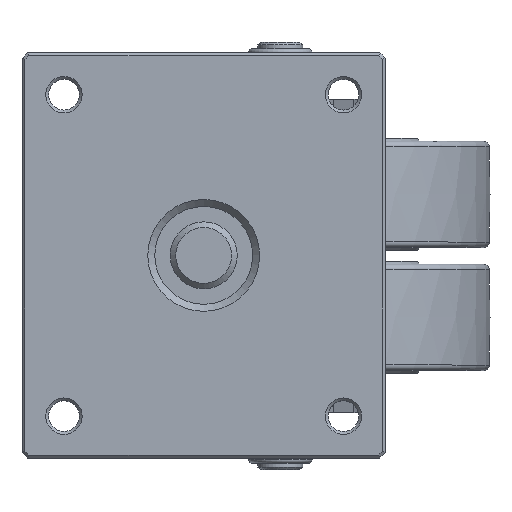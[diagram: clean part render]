
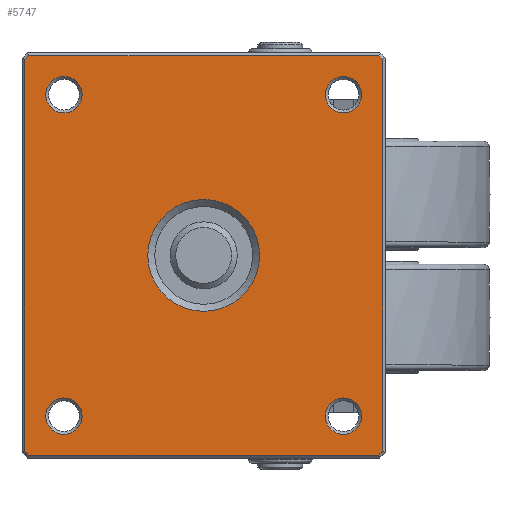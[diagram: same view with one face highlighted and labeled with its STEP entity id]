
A CAD part, top view. The second image highlights one B-rep face of the part: STEP entity #5747.
In plain terms, the highlighted planar face has unit normal (0, 0, 1).
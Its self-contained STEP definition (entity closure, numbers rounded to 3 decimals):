
#4667=CARTESIAN_POINT('',(36.992,59.63,23.5));
#4668=VERTEX_POINT('',#4667);
#4669=CARTESIAN_POINT('',(30.492,59.63,23.5));
#4670=DIRECTION('',(0.0,0.0,1.0));
#4671=DIRECTION('',(-1.0,0.0,0.0));
#4672=AXIS2_PLACEMENT_3D('',#4669,#4670,#4671);
#4673=CIRCLE('',#4672,6.5);
#4674=EDGE_CURVE('',#4668,#4668,#4673,.T.);
#4695=CARTESIAN_POINT('',(136.992,59.63,23.5));
#4696=VERTEX_POINT('',#4695);
#4697=CARTESIAN_POINT('',(130.492,59.63,23.5));
#4698=DIRECTION('',(0.0,0.0,1.0));
#4699=DIRECTION('',(-1.0,0.0,0.0));
#4700=AXIS2_PLACEMENT_3D('',#4697,#4698,#4699);
#4701=CIRCLE('',#4700,6.5);
#4702=EDGE_CURVE('',#4696,#4696,#4701,.T.);
#4723=CARTESIAN_POINT('',(136.992,-55.37,23.5));
#4724=VERTEX_POINT('',#4723);
#4725=CARTESIAN_POINT('',(130.492,-55.37,23.5));
#4726=DIRECTION('',(0.0,0.0,1.0));
#4727=DIRECTION('',(-1.0,0.0,0.0));
#4728=AXIS2_PLACEMENT_3D('',#4725,#4726,#4727);
#4729=CIRCLE('',#4728,6.5);
#4730=EDGE_CURVE('',#4724,#4724,#4729,.T.);
#4751=CARTESIAN_POINT('',(36.992,-55.37,23.5));
#4752=VERTEX_POINT('',#4751);
#4753=CARTESIAN_POINT('',(30.492,-55.37,23.5));
#4754=DIRECTION('',(0.0,0.0,1.0));
#4755=DIRECTION('',(-1.0,0.0,0.0));
#4756=AXIS2_PLACEMENT_3D('',#4753,#4754,#4755);
#4757=CIRCLE('',#4756,6.5);
#4758=EDGE_CURVE('',#4752,#4752,#4757,.T.);
#5036=CARTESIAN_POINT('',(100.492,2.13,23.5));
#5037=VERTEX_POINT('',#5036);
#5038=CARTESIAN_POINT('',(80.492,2.13,23.5));
#5039=DIRECTION('',(0.0,0.0,-1.0));
#5040=DIRECTION('',(1.0,0.0,0.0));
#5041=AXIS2_PLACEMENT_3D('',#5038,#5039,#5040);
#5042=CIRCLE('',#5041,20.);
#5043=EDGE_CURVE('',#5037,#5037,#5042,.T.);
#5471=CARTESIAN_POINT('',(144.492,72.216,23.5));
#5472=VERTEX_POINT('',#5471);
#5479=CARTESIAN_POINT('',(144.492,-67.955,23.5));
#5480=VERTEX_POINT('',#5479);
#5481=CARTESIAN_POINT('',(144.492,72.216,23.5));
#5482=DIRECTION('',(0.0,-1.0,0.0));
#5483=VECTOR('',#5482,140.172);
#5484=LINE('',#5481,#5483);
#5485=EDGE_CURVE('',#5472,#5480,#5484,.T.);
#5502=CARTESIAN_POINT('',(143.078,73.63,23.5));
#5503=VERTEX_POINT('',#5502);
#5510=CARTESIAN_POINT('',(143.078,73.63,23.5));
#5511=DIRECTION('',(0.707,-0.707,0.0));
#5512=VECTOR('',#5511,2.);
#5513=LINE('',#5510,#5512);
#5514=EDGE_CURVE('',#5503,#5472,#5513,.T.);
#5535=CARTESIAN_POINT('',(16.492,-67.955,23.5));
#5536=VERTEX_POINT('',#5535);
#5543=CARTESIAN_POINT('',(16.492,72.216,23.5));
#5544=VERTEX_POINT('',#5543);
#5545=CARTESIAN_POINT('',(16.492,-67.955,23.5));
#5546=DIRECTION('',(0.0,1.0,0.0));
#5547=VECTOR('',#5546,140.172);
#5548=LINE('',#5545,#5547);
#5549=EDGE_CURVE('',#5536,#5544,#5548,.T.);
#5573=CARTESIAN_POINT('',(17.907,73.63,23.5));
#5574=VERTEX_POINT('',#5573);
#5581=CARTESIAN_POINT('',(17.907,73.63,23.5));
#5582=DIRECTION('',(1.0,0.0,0.0));
#5583=VECTOR('',#5582,125.172);
#5584=LINE('',#5581,#5583);
#5585=EDGE_CURVE('',#5574,#5503,#5584,.T.);
#5603=CARTESIAN_POINT('',(16.492,72.216,23.5));
#5604=DIRECTION('',(0.707,0.707,0.0));
#5605=VECTOR('',#5604,2.);
#5606=LINE('',#5603,#5605);
#5607=EDGE_CURVE('',#5544,#5574,#5606,.T.);
#5624=CARTESIAN_POINT('',(17.907,-69.37,23.5));
#5625=VERTEX_POINT('',#5624);
#5632=CARTESIAN_POINT('',(17.907,-69.37,23.5));
#5633=DIRECTION('',(-0.707,0.707,0.0));
#5634=VECTOR('',#5633,2.);
#5635=LINE('',#5632,#5634);
#5636=EDGE_CURVE('',#5625,#5536,#5635,.T.);
#5648=CARTESIAN_POINT('',(143.078,-69.37,23.5));
#5649=VERTEX_POINT('',#5648);
#5656=CARTESIAN_POINT('',(143.078,-69.37,23.5));
#5657=DIRECTION('',(-1.0,0.0,0.0));
#5658=VECTOR('',#5657,125.172);
#5659=LINE('',#5656,#5658);
#5660=EDGE_CURVE('',#5649,#5625,#5659,.T.);
#5673=CARTESIAN_POINT('',(144.492,-67.955,23.5));
#5674=DIRECTION('',(-0.707,-0.707,0.0));
#5675=VECTOR('',#5674,2.);
#5676=LINE('',#5673,#5675);
#5677=EDGE_CURVE('',#5480,#5649,#5676,.T.);
#5717=CARTESIAN_POINT('',(80.492,2.13,23.5));
#5718=DIRECTION('',(0.0,0.0,1.0));
#5719=DIRECTION('',(1.0,0.0,0.0));
#5720=AXIS2_PLACEMENT_3D('',#5717,#5718,#5719);
#5721=PLANE('',#5720);
#5722=ORIENTED_EDGE('',*,*,#5549,.F.);
#5723=ORIENTED_EDGE('',*,*,#5636,.F.);
#5724=ORIENTED_EDGE('',*,*,#5660,.F.);
#5725=ORIENTED_EDGE('',*,*,#5677,.F.);
#5726=ORIENTED_EDGE('',*,*,#5485,.F.);
#5727=ORIENTED_EDGE('',*,*,#5514,.F.);
#5728=ORIENTED_EDGE('',*,*,#5585,.F.);
#5729=ORIENTED_EDGE('',*,*,#5607,.F.);
#5730=EDGE_LOOP('',(#5722,#5723,#5724,#5725,#5726,#5727,#5728,#5729));
#5731=FACE_OUTER_BOUND('',#5730,.T.);
#5732=ORIENTED_EDGE('',*,*,#5043,.T.);
#5733=EDGE_LOOP('',(#5732));
#5734=FACE_BOUND('',#5733,.T.);
#5735=ORIENTED_EDGE('',*,*,#4758,.F.);
#5736=EDGE_LOOP('',(#5735));
#5737=FACE_BOUND('',#5736,.T.);
#5738=ORIENTED_EDGE('',*,*,#4702,.F.);
#5739=EDGE_LOOP('',(#5738));
#5740=FACE_BOUND('',#5739,.T.);
#5741=ORIENTED_EDGE('',*,*,#4674,.F.);
#5742=EDGE_LOOP('',(#5741));
#5743=FACE_BOUND('',#5742,.T.);
#5744=ORIENTED_EDGE('',*,*,#4730,.F.);
#5745=EDGE_LOOP('',(#5744));
#5746=FACE_BOUND('',#5745,.T.);
#5747=ADVANCED_FACE('',(#5731,#5734,#5737,#5740,#5743,#5746),#5721,.T.);
